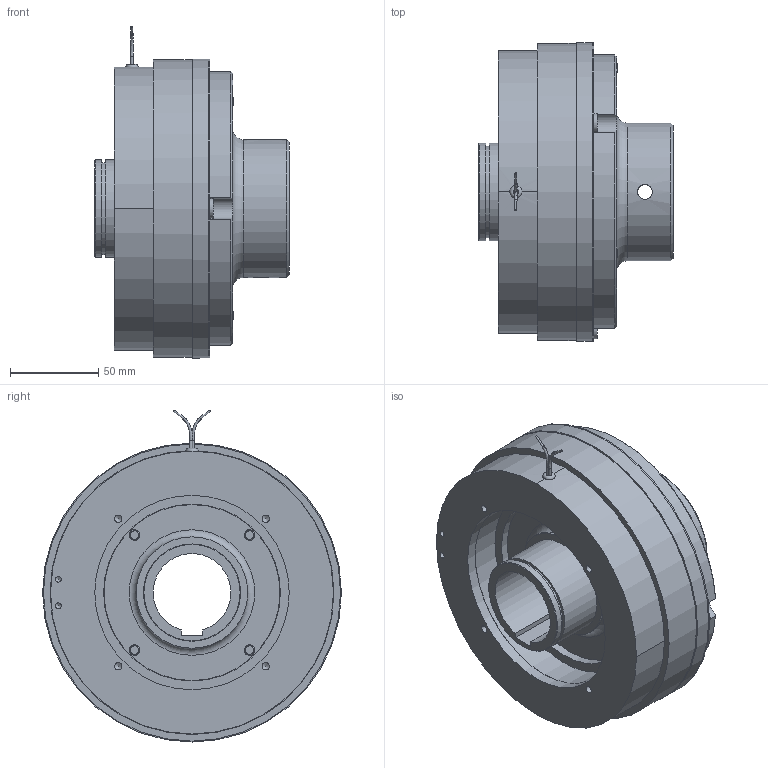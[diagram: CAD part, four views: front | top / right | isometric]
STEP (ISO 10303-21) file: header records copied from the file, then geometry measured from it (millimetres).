
FILE_DESCRIPTION(/* description */ (''),/* implementation_level */ '2;1');
FILE_NAME(/* name */ 'X:\INVENTOR\DISEGNI\08_Freni_Friz_Elettmag_Monodisco\08_26 EMSL_DF\EMSL_DF STEP\08_26_170_22 EMSL170_DF-BM-ME@STEP.stp',/* time_stamp */ '2018-04-24T09:01:03+02:00',/* author */ ('stefano'),/* organization */ (''),/* preprocessor_version */ 'ST-DEVELOPER v17',/* originating_system */ 'Autodesk Inventor 2018',/* authorisation */ '');
FILE_SCHEMA (('AUTOMOTIVE_DESIGN { 1 0 10303 214 3 1 1 }'));
Length unit declared in the file: millimetre
Products named in the file (1): 08_26_170_22 EMSL170_DF-BM-ME_Substitute_1
Bounding box: 110 x 169 x 187.72 mm (x, y, z)
Volume: 1013444.2 mm3; surface area: 226648.9 mm2
Topology: 4 solids, 4 shells, 341 faces, 943 edges, 656 vertices
Faces by surface type: cylinder 169, plane 110, cone 50, torus 10, bspline 2
Full cylindrical faces by diameter (mm): 1.154 x2, 1.5 x7, 3.242 x2, 4.134 x4, 6 x8, 8.376 x2, 10 x3, 10.5 x4, 11 x9, 12 x3, 52 x1, 55 x2, 63 x1, 78 x1, 80 x1, 99.5 x1, 100 x1, 105 x2, 110 x1, 110.5 x1, 111 x1, 122 x1, 155 x1, 160.5 x1, 168 x1, 169 x2
Entity records: 11835 total; most frequent: CARTESIAN_POINT 2384, DIRECTION 2071, ORIENTED_EDGE 1850, EDGE_CURVE 925, AXIS2_PLACEMENT_3D 874, VERTEX_POINT 657, CIRCLE 534, EDGE_LOOP 455
